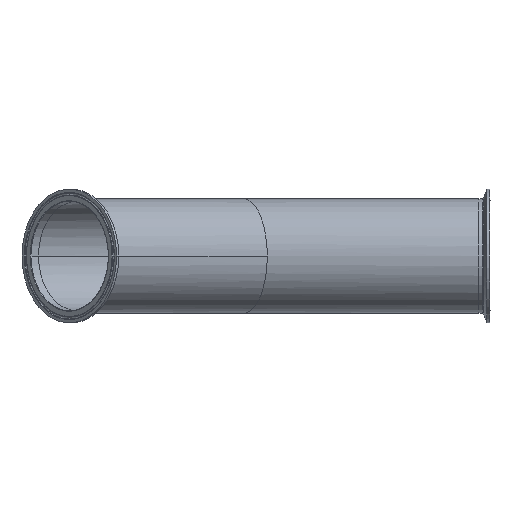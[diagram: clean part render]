
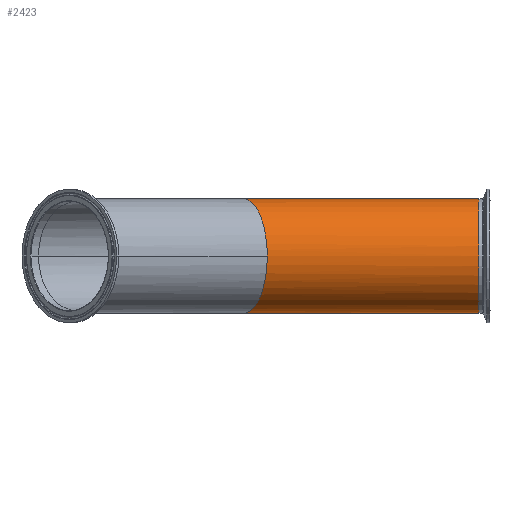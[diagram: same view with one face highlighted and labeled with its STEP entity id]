
A CAD part, left-side view. The second image highlights one B-rep face of the part: STEP entity #2423.
In plain terms, the highlighted cylindrical face has radius 50.8 mm (diameter 101.6 mm), a partial arc.
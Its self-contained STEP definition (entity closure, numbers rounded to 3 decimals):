
#85 = CARTESIAN_POINT ( 'NONE',  ( 0., -209.1, -50.8 ) ) ;
#155 = DIRECTION ( 'NONE',  ( 0., 1., 0. ) ) ;
#251 = ORIENTED_EDGE ( 'NONE', *, *, #3484, .T. ) ;
#266 = LINE ( 'NONE', #1635, #2969 ) ;
#310 = CARTESIAN_POINT ( 'NONE',  ( -50.8, -21.042, 29.758 ) ) ;
#379 = AXIS2_PLACEMENT_3D ( 'NONE', #3727, #1655, #4077 ) ;
#497 = ORIENTED_EDGE ( 'NONE', *, *, #2959, .F. ) ;
#784 =( BOUNDED_CURVE ( )  B_SPLINE_CURVE ( 3, ( #2363, #1988, #2623, #2966 ),
 .UNSPECIFIED., .F., .F. ) 
 B_SPLINE_CURVE_WITH_KNOTS ( ( 4, 4 ),
 ( 0., 1.571 ),
 .UNSPECIFIED. ) 
 CURVE ( )  GEOMETRIC_REPRESENTATION_ITEM ( )  RATIONAL_B_SPLINE_CURVE ( ( 1., 0.805, 0.805, 1. ) ) 
 REPRESENTATION_ITEM ( '' )  );
#930 = AXIS2_PLACEMENT_3D ( 'NONE', #2620, #155, #1827 ) ;
#937 = VERTEX_POINT ( 'NONE', #3554 ) ;
#951 = VERTEX_POINT ( 'NONE', #2862 ) ;
#1007 = VERTEX_POINT ( 'NONE', #85 ) ;
#1324 = VERTEX_POINT ( 'NONE', #3048 ) ;
#1391 = ORIENTED_EDGE ( 'NONE', *, *, #1787, .T. ) ;
#1551 = EDGE_CURVE ( 'NONE', #3316, #1324, #2885, .T. ) ;
#1623 = FACE_OUTER_BOUND ( 'NONE', #2544, .T. ) ;
#1632 = EDGE_CURVE ( 'NONE', #951, #3316, #3571, .T. ) ;
#1635 = CARTESIAN_POINT ( 'NONE',  ( 0., -209.1, -50.8 ) ) ;
#1655 = DIRECTION ( 'NONE',  ( 0., 1., 0. ) ) ;
#1787 = EDGE_CURVE ( 'NONE', #1007, #951, #3252, .T. ) ;
#1827 = DIRECTION ( 'NONE',  ( 0., 0., 1. ) ) ;
#1988 = CARTESIAN_POINT ( 'NONE',  ( -50.8, -21.042, -29.758 ) ) ;
#2034 = ORIENTED_EDGE ( 'NONE', *, *, #1551, .T. ) ;
#2085 = CARTESIAN_POINT ( 'NONE',  ( 0., 0., 50.8 ) ) ;
#2363 = CARTESIAN_POINT ( 'NONE',  ( -50.8, -21.042, 0. ) ) ;
#2423 = ADVANCED_FACE ( 'NONE', ( #1623 ), #3444, .T. ) ;
#2544 = EDGE_LOOP ( 'NONE', ( #497, #1391, #4042, #2034, #251 ) ) ;
#2620 = CARTESIAN_POINT ( 'NONE',  ( 0., -209.1, 0. ) ) ;
#2623 = CARTESIAN_POINT ( 'NONE',  ( -29.758, -12.326, -50.8 ) ) ;
#2764 = CARTESIAN_POINT ( 'NONE',  ( -50.8, -21.042, 0. ) ) ;
#2862 = CARTESIAN_POINT ( 'NONE',  ( 0., -209.1, 50.8 ) ) ;
#2885 =( BOUNDED_CURVE ( )  B_SPLINE_CURVE ( 3, ( #2085, #4154, #310, #2764 ),
 .UNSPECIFIED., .F., .T. ) 
 B_SPLINE_CURVE_WITH_KNOTS ( ( 4, 4 ),
 ( 4.712, 6.283 ),
 .UNSPECIFIED. ) 
 CURVE ( )  GEOMETRIC_REPRESENTATION_ITEM ( )  RATIONAL_B_SPLINE_CURVE ( ( 1., 0.805, 0.805, 1. ) ) 
 REPRESENTATION_ITEM ( '' )  );
#2959 = EDGE_CURVE ( 'NONE', #1007, #937, #266, .T. ) ;
#2966 = CARTESIAN_POINT ( 'NONE',  ( 0., 0., -50.8 ) ) ;
#2969 = VECTOR ( 'NONE', #3700, 1000. ) ;
#3048 = CARTESIAN_POINT ( 'NONE',  ( -50.8, -21.042, 0. ) ) ;
#3252 = CIRCLE ( 'NONE', #379, 50.8 ) ;
#3316 = VERTEX_POINT ( 'NONE', #3662 ) ;
#3444 = CYLINDRICAL_SURFACE ( 'NONE', #930, 50.8 ) ;
#3448 = VECTOR ( 'NONE', #4556, 1000. ) ;
#3484 = EDGE_CURVE ( 'NONE', #1324, #937, #784, .T. ) ;
#3554 = CARTESIAN_POINT ( 'NONE',  ( 0., 0., -50.8 ) ) ;
#3571 = LINE ( 'NONE', #4195, #3448 ) ;
#3662 = CARTESIAN_POINT ( 'NONE',  ( 0., 0., 50.8 ) ) ;
#3700 = DIRECTION ( 'NONE',  ( 0., 1., 0. ) ) ;
#3727 = CARTESIAN_POINT ( 'NONE',  ( 0., -209.1, 0. ) ) ;
#4042 = ORIENTED_EDGE ( 'NONE', *, *, #1632, .T. ) ;
#4077 = DIRECTION ( 'NONE',  ( 0., 0., 1. ) ) ;
#4154 = CARTESIAN_POINT ( 'NONE',  ( -29.758, -12.326, 50.8 ) ) ;
#4195 = CARTESIAN_POINT ( 'NONE',  ( 0., -209.1, 50.8 ) ) ;
#4556 = DIRECTION ( 'NONE',  ( 0., 1., 0. ) ) ;
